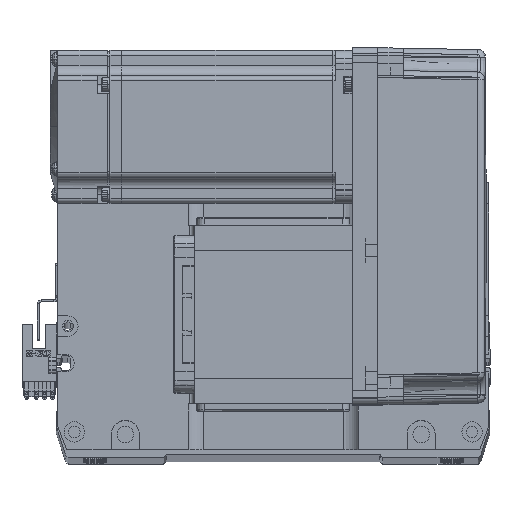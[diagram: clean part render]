
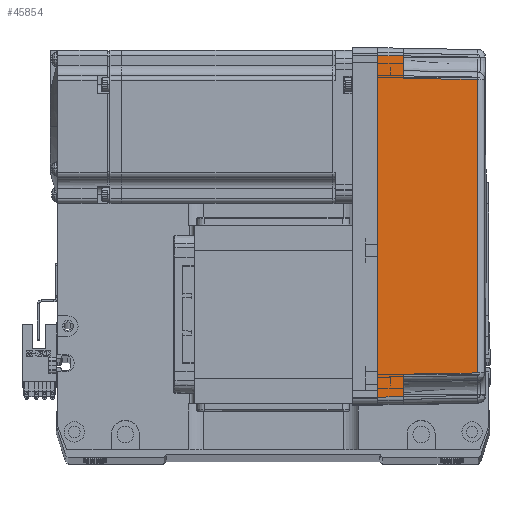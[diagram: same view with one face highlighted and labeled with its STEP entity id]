
A CAD part, top view. The second image highlights one B-rep face of the part: STEP entity #45854.
In plain terms, the highlighted planar face has unit normal (0.018, 0, 1) as drawn and (0, -1, 0.017) by its records, which use the part's own axes.
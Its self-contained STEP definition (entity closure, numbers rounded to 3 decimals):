
#2382 = EDGE_CURVE ( 'NONE', #47352, #46002, #14851, .T. ) ;
#3308 = DIRECTION ( 'NONE',  ( -0.017, -0.017, -1. ) ) ;
#5233 = CARTESIAN_POINT ( 'NONE',  ( -19.165, -35.316, 39.181 ) ) ;
#5424 = CARTESIAN_POINT ( 'NONE',  ( -57.495, -35.32, 38.985 ) ) ;
#6933 = DIRECTION ( 'NONE',  ( 0., -0.017, -1. ) ) ;
#7996 = ORIENTED_EDGE ( 'NONE', *, *, #60165, .T. ) ;
#8024 = ORIENTED_EDGE ( 'NONE', *, *, #14120, .F. ) ;
#9196 = VERTEX_POINT ( 'NONE', #61753 ) ;
#9617 = CARTESIAN_POINT ( 'NONE',  ( 19.165, -35.316, 39.181 ) ) ;
#10200 = CARTESIAN_POINT ( 'NONE',  ( 58., -35.825, 10. ) ) ;
#10730 = LINE ( 'NONE', #20303, #22585 ) ;
#11371 = FACE_OUTER_BOUND ( 'NONE', #43602, .T. ) ;
#11995 = PLANE ( 'NONE',  #61756 ) ;
#13119 = VECTOR ( 'NONE', #16459, 1000. ) ;
#13496 = LINE ( 'NONE', #56611, #30081 ) ;
#14120 = EDGE_CURVE ( 'NONE', #45878, #25377, #10730, .T. ) ;
#14394 = DIRECTION ( 'NONE',  ( -0.017, 0.017, 1. ) ) ;
#14692 = CARTESIAN_POINT ( 'NONE',  ( 57.495, -35.32, 38.985 ) ) ;
#14851 = LINE ( 'NONE', #63547, #30640 ) ;
#15437 = VECTOR ( 'NONE', #14394, 1000. ) ;
#16459 = DIRECTION ( 'NONE',  ( -1., 0., 0. ) ) ;
#17870 = EDGE_CURVE ( 'NONE', #43762, #54794, #58040, .T. ) ;
#20303 = CARTESIAN_POINT ( 'NONE',  ( 0., -36., 0. ) ) ;
#21177 = ORIENTED_EDGE ( 'NONE', *, *, #17870, .T. ) ;
#21427 = CARTESIAN_POINT ( 'NONE',  ( 67., -36., 0. ) ) ;
#22585 = VECTOR ( 'NONE', #55779, 1000. ) ;
#23125 = EDGE_CURVE ( 'NONE', #25377, #9196, #33187, .T. ) ;
#25377 = VERTEX_POINT ( 'NONE', #45759 ) ;
#26550 = LINE ( 'NONE', #26618, #13119 ) ;
#26618 = CARTESIAN_POINT ( 'NONE',  ( 70., -35.825, 10. ) ) ;
#28683 = EDGE_CURVE ( 'NONE', #46002, #9196, #26550, .T. ) ;
#29526 = ORIENTED_EDGE ( 'NONE', *, *, #23125, .F. ) ;
#30081 = VECTOR ( 'NONE', #46906, 1000. ) ;
#30640 = VECTOR ( 'NONE', #3308, 1000. ) ;
#31388 = EDGE_CURVE ( 'NONE', #48690, #43762, #13496, .T. ) ;
#32128 = DIRECTION ( 'NONE',  ( 0., -1., 0.017 ) ) ;
#33187 = LINE ( 'NONE', #48654, #55256 ) ;
#35625 = LINE ( 'NONE', #21427, #59254 ) ;
#37850 = CARTESIAN_POINT ( 'NONE',  ( 58., -35.825, 10. ) ) ;
#38528 = CARTESIAN_POINT ( 'NONE',  ( 67., -36., 0. ) ) ;
#42494 = CARTESIAN_POINT ( 'NONE',  ( 70., -36., 0. ) ) ;
#43434 = ORIENTED_EDGE ( 'NONE', *, *, #2382, .T. ) ;
#43602 = EDGE_LOOP ( 'NONE', ( #7996, #57718, #21177, #51319, #43434, #50340, #29526, #8024 ) ) ;
#43762 = VERTEX_POINT ( 'NONE', #37850 ) ;
#44921 = CARTESIAN_POINT ( 'NONE',  ( -57.495, -35.32, 38.985 ) ) ;
#45759 = CARTESIAN_POINT ( 'NONE',  ( -67., -36., 0. ) ) ;
#45854 = ADVANCED_FACE ( 'NONE', ( #11371 ), #11995, .T. ) ;
#45878 = VERTEX_POINT ( 'NONE', #38528 ) ;
#46002 = VERTEX_POINT ( 'NONE', #59841 ) ;
#46906 = DIRECTION ( 'NONE',  ( -1., 0., 0. ) ) ;
#47352 = VERTEX_POINT ( 'NONE', #5424 ) ;
#48654 = CARTESIAN_POINT ( 'NONE',  ( -66.959, -35.958, 2.39 ) ) ;
#48690 = VERTEX_POINT ( 'NONE', #49889 ) ;
#49889 = CARTESIAN_POINT ( 'NONE',  ( 66.826, -35.825, 10. ) ) ;
#50340 = ORIENTED_EDGE ( 'NONE', *, *, #28683, .T. ) ;
#51319 = ORIENTED_EDGE ( 'NONE', *, *, #54205, .T. ) ;
#54205 = EDGE_CURVE ( 'NONE', #54794, #47352, #63226, .T. ) ;
#54794 = VERTEX_POINT ( 'NONE', #60855 ) ;
#55256 = VECTOR ( 'NONE', #58787, 1000. ) ;
#55779 = DIRECTION ( 'NONE',  ( -1., 0., 0. ) ) ;
#56611 = CARTESIAN_POINT ( 'NONE',  ( 70., -35.825, 10. ) ) ;
#57718 = ORIENTED_EDGE ( 'NONE', *, *, #31388, .T. ) ;
#58040 = LINE ( 'NONE', #10200, #15437 ) ;
#58787 = DIRECTION ( 'NONE',  ( 0.017, 0.017, 1. ) ) ;
#59254 = VECTOR ( 'NONE', #61794, 1000. ) ;
#59841 = CARTESIAN_POINT ( 'NONE',  ( -58., -35.825, 10. ) ) ;
#60165 = EDGE_CURVE ( 'NONE', #45878, #48690, #35625, .T. ) ;
#60855 = CARTESIAN_POINT ( 'NONE',  ( 57.495, -35.32, 38.985 ) ) ;
#61753 = CARTESIAN_POINT ( 'NONE',  ( -66.826, -35.825, 10. ) ) ;
#61756 = AXIS2_PLACEMENT_3D ( 'NONE', #42494, #32128, #6933 ) ;
#61794 = DIRECTION ( 'NONE',  ( -0.017, 0.017, 1. ) ) ;
#63226 = B_SPLINE_CURVE_WITH_KNOTS ( 'NONE', 3,
 ( #14692, #9617, #5233, #44921 ),
 .UNSPECIFIED., .F., .F.,
 ( 4, 4 ),
 ( 0., 1. ),
 .UNSPECIFIED. ) ;
#63547 = CARTESIAN_POINT ( 'NONE',  ( -57.495, -35.32, 38.985 ) ) ;
